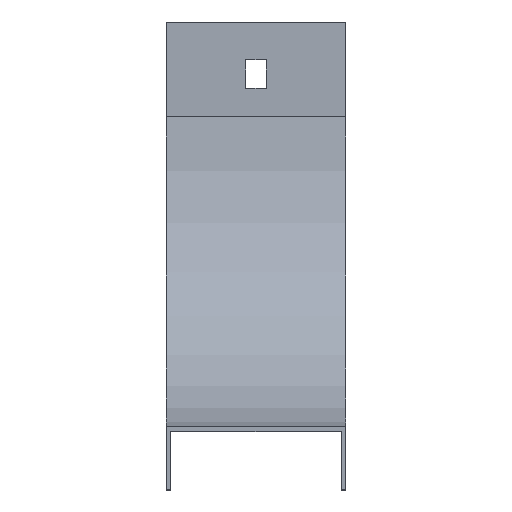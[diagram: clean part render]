
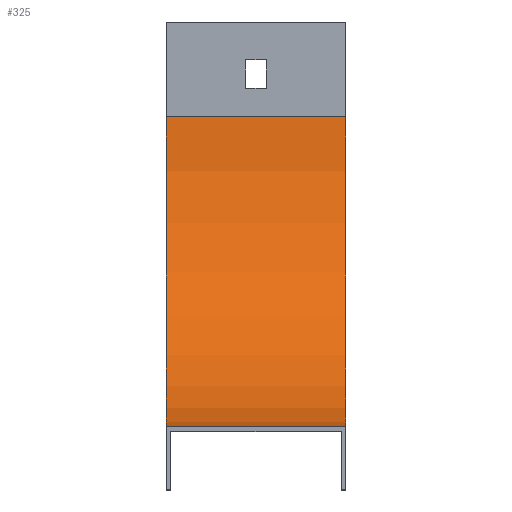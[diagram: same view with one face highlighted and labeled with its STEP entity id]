
A CAD part, top view. The second image highlights one B-rep face of the part: STEP entity #325.
In plain terms, the highlighted cylindrical face has radius 98.5 mm (diameter 197 mm), a partial arc.
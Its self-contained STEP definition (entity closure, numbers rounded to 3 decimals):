
#38 = DIRECTION ( 'NONE',  ( -1., 0., 0. ) ) ;
#49 = VERTEX_POINT ( 'NONE', #454 ) ;
#53 = EDGE_CURVE ( 'NONE', #560, #193, #189, .T. ) ;
#55 = CARTESIAN_POINT ( 'NONE',  ( -28.5, 98.5, -30. ) ) ;
#96 = DIRECTION ( 'NONE',  ( -1., 0., 0. ) ) ;
#123 = CARTESIAN_POINT ( 'NONE',  ( 28.5, 0., -30. ) ) ;
#124 = AXIS2_PLACEMENT_3D ( 'NONE', #715, #711, #703 ) ;
#136 = AXIS2_PLACEMENT_3D ( 'NONE', #159, #96, #760 ) ;
#159 = CARTESIAN_POINT ( 'NONE',  ( 28.5, 98.5, -30. ) ) ;
#189 = LINE ( 'NONE', #123, #709 ) ;
#193 = VERTEX_POINT ( 'NONE', #666 ) ;
#204 = CARTESIAN_POINT ( 'NONE',  ( -28.5, 98.5, -128.5 ) ) ;
#225 = CYLINDRICAL_SURFACE ( 'NONE', #124, 98.5 ) ;
#319 = DIRECTION ( 'NONE',  ( -1., 0., 0. ) ) ;
#325 = ADVANCED_FACE ( 'NONE', ( #770 ), #225, .F. ) ;
#350 = EDGE_CURVE ( 'NONE', #49, #560, #515, .T. ) ;
#373 = EDGE_CURVE ( 'NONE', #49, #539, #765, .T. ) ;
#440 = AXIS2_PLACEMENT_3D ( 'NONE', #55, #319, #595 ) ;
#454 = CARTESIAN_POINT ( 'NONE',  ( 28.5, 98.5, -128.5 ) ) ;
#468 = VECTOR ( 'NONE', #38, 1000. ) ;
#515 = CIRCLE ( 'NONE', #136, 98.5 ) ;
#538 = EDGE_LOOP ( 'NONE', ( #628, #705, #773, #819 ) ) ;
#539 = VERTEX_POINT ( 'NONE', #204 ) ;
#560 = VERTEX_POINT ( 'NONE', #759 ) ;
#595 = DIRECTION ( 'NONE',  ( 0., 0., -1. ) ) ;
#598 = CIRCLE ( 'NONE', #440, 98.5 ) ;
#628 = ORIENTED_EDGE ( 'NONE', *, *, #859, .T. ) ;
#646 = CARTESIAN_POINT ( 'NONE',  ( 28.5, 98.5, -128.5 ) ) ;
#656 = DIRECTION ( 'NONE',  ( -1., 0., 0. ) ) ;
#666 = CARTESIAN_POINT ( 'NONE',  ( -28.5, 0., -30. ) ) ;
#703 = DIRECTION ( 'NONE',  ( 0., 0., 1. ) ) ;
#705 = ORIENTED_EDGE ( 'NONE', *, *, #53, .F. ) ;
#709 = VECTOR ( 'NONE', #656, 1000. ) ;
#711 = DIRECTION ( 'NONE',  ( -1., 0., 0. ) ) ;
#715 = CARTESIAN_POINT ( 'NONE',  ( 28.5, 98.5, -30. ) ) ;
#759 = CARTESIAN_POINT ( 'NONE',  ( 28.5, 0., -30. ) ) ;
#760 = DIRECTION ( 'NONE',  ( 0., 0., -1. ) ) ;
#765 = LINE ( 'NONE', #646, #468 ) ;
#770 = FACE_OUTER_BOUND ( 'NONE', #538, .T. ) ;
#773 = ORIENTED_EDGE ( 'NONE', *, *, #350, .F. ) ;
#819 = ORIENTED_EDGE ( 'NONE', *, *, #373, .T. ) ;
#859 = EDGE_CURVE ( 'NONE', #539, #193, #598, .T. ) ;
